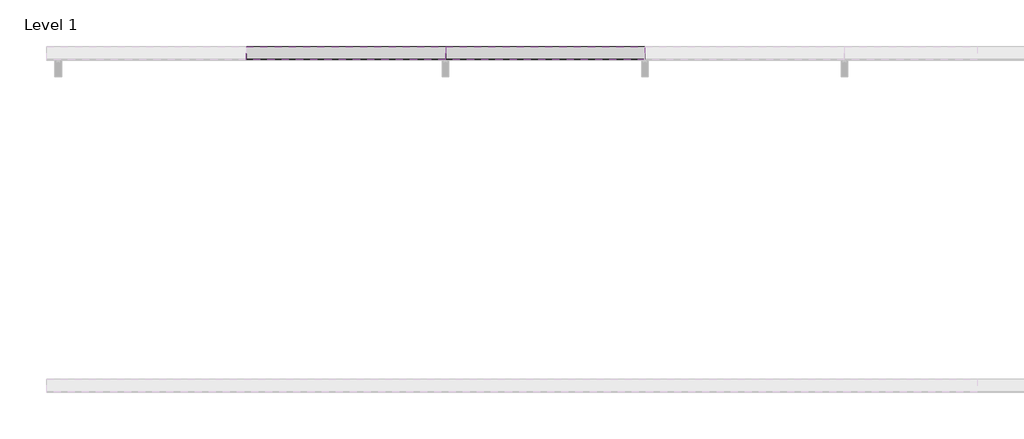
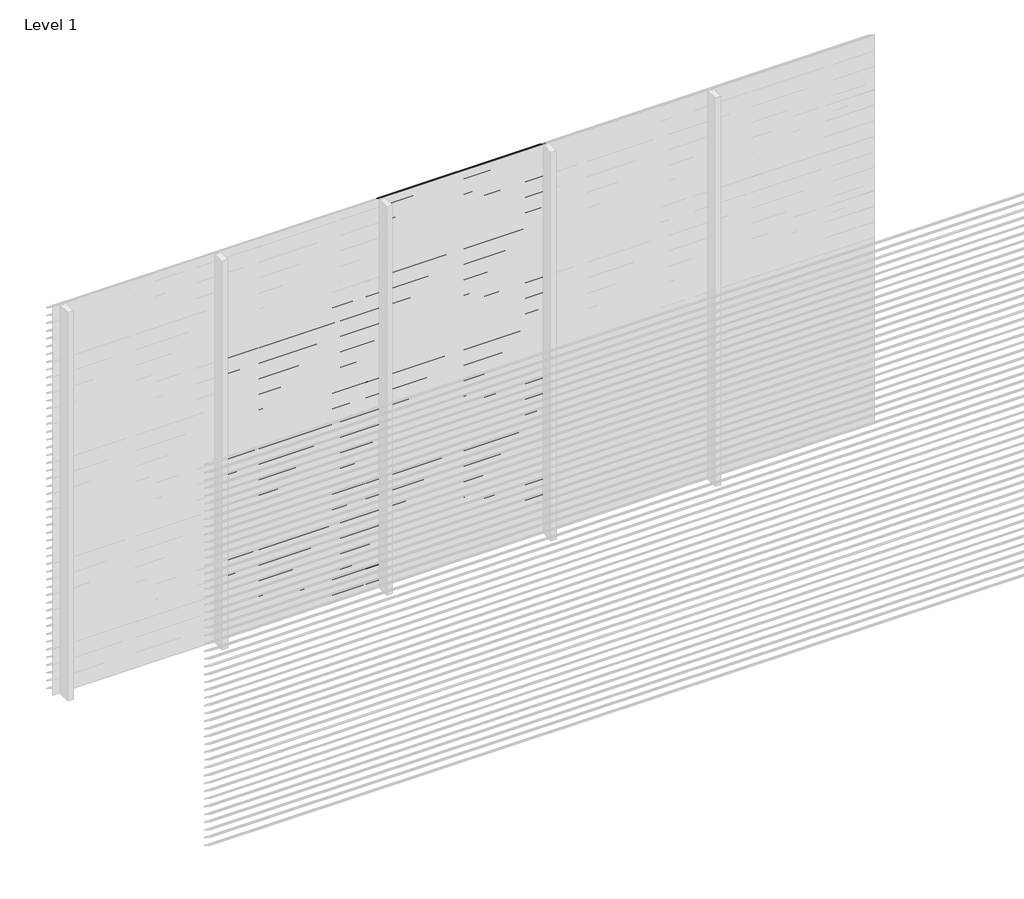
# One storey, part 27 of 153: 84 proxies.
"""IFC4 building model written with IfcOpenShell, lengths in millimetres."""

from ifc_helpers import new_model, si_unit, frame, origin, place, context, project, spatial, polyline, outline, extrude, element, save

model = new_model("IFC4")

# Units and contexts
model_context = context("Model", 3, world=origin())
ifc_project = project(units=[si_unit("LENGTHUNIT", "METRE", prefix="MILLI")], contexts=[model_context])

# Site, building, storey
site = spatial("IfcSite", under=ifc_project)
building = spatial("IfcBuilding", under=site)
storey = spatial("IfcBuildingStorey", under=building, Name="Level 1", Elevation=0.0)

# Proxies
placement = place(None, origin())
element("IfcBuildingElementProxy", 1, Name="Wall Sweeps", at=placement, inside=storey, context=model_context, shape_type="SweptSolid", body=[
    extrude(outline(polyline([(29061.0540136, 2226.0), (29061.0540136, 2220.0), (29059.8040136, 2220.7216933), (29059.8040136, 2225.2538091), (28983.0540136, 2273.9915103), (28983.0540136, 2280.0), (28984.3040136, 2280.0), (28984.3040136, 2274.7377012), (29061.0540136, 2226.0)])), frame((1666.6208099, 0.0, 0.0), z_axis=(1.0, 0.0, 0.0), x_axis=(0.0, 1.0, 0.0)), (0.0, 0.0, 1.0), 1199.9999999),
])
element("IfcBuildingElementProxy", 2, Name="Wall Sweeps", at=placement, inside=storey, context=model_context, shape_type="SweptSolid", body=[
    extrude(outline(polyline([(29061.0540136, 2166.0), (29061.0540136, 2160.0), (29059.8040136, 2160.7216933), (29059.8040136, 2165.2538091), (28983.0540136, 2213.9915103), (28983.0540136, 2220.0), (28984.3040136, 2220.0), (28984.3040136, 2214.7377012), (29061.0540136, 2166.0)])), frame((1666.6208099, 0.0, 0.0), z_axis=(1.0, 0.0, 0.0), x_axis=(0.0, 1.0, 0.0)), (0.0, 0.0, 1.0), 1199.9999999),
])
element("IfcBuildingElementProxy", 3, Name="Wall Sweeps", at=placement, inside=storey, context=model_context, shape_type="SweptSolid", body=[
    extrude(outline(polyline([(29061.0540136, 2106.0), (29061.0540136, 2100.0), (29059.8040136, 2100.7216933), (29059.8040136, 2105.2538091), (28983.0540136, 2153.9915103), (28983.0540136, 2160.0), (28984.3040136, 2160.0), (28984.3040136, 2154.7377012), (29061.0540136, 2106.0)])), frame((1666.6208099, 0.0, 0.0), z_axis=(1.0, 0.0, 0.0), x_axis=(0.0, 1.0, 0.0)), (0.0, 0.0, 1.0), 1199.9999999),
])
element("IfcBuildingElementProxy", 4, Name="Wall Sweeps", at=placement, inside=storey, context=model_context, shape_type="SweptSolid", body=[
    extrude(outline(polyline([(29061.0540136, 2046.0), (29061.0540136, 2040.0), (29059.8040136, 2040.7216933), (29059.8040136, 2045.2538091), (28983.0540136, 2093.9915103), (28983.0540136, 2100.0), (28984.3040136, 2100.0), (28984.3040136, 2094.7377012), (29061.0540136, 2046.0)])), frame((1666.6208099, 0.0, 0.0), z_axis=(1.0, 0.0, 0.0), x_axis=(0.0, 1.0, 0.0)), (0.0, 0.0, 1.0), 1199.9999999),
])
element("IfcBuildingElementProxy", 5, Name="Wall Sweeps", at=placement, inside=storey, context=model_context, shape_type="SweptSolid", body=[
    extrude(outline(polyline([(29061.0540136, 1986.0), (29061.0540136, 1980.0), (29059.8040136, 1980.7216933), (29059.8040136, 1985.2538091), (28983.0540136, 2033.9915103), (28983.0540136, 2040.0), (28984.3040136, 2040.0), (28984.3040136, 2034.7377012), (29061.0540136, 1986.0)])), frame((1666.6208099, 0.0, 0.0), z_axis=(1.0, 0.0, 0.0), x_axis=(0.0, 1.0, 0.0)), (0.0, 0.0, 1.0), 1199.9999999),
])
element("IfcBuildingElementProxy", 6, Name="Wall Sweeps", at=placement, inside=storey, context=model_context, shape_type="SweptSolid", body=[
    extrude(outline(polyline([(29061.0540136, 1926.0), (29061.0540136, 1920.0), (29059.8040136, 1920.7216933), (29059.8040136, 1925.2538091), (28983.0540136, 1973.9915103), (28983.0540136, 1980.0), (28984.3040136, 1980.0), (28984.3040136, 1974.7377012), (29061.0540136, 1926.0)])), frame((1666.6208099, 0.0, 0.0), z_axis=(1.0, 0.0, 0.0), x_axis=(0.0, 1.0, 0.0)), (0.0, 0.0, 1.0), 1199.9999999),
])
element("IfcBuildingElementProxy", 7, Name="Wall Sweeps", at=placement, inside=storey, context=model_context, shape_type="SweptSolid", body=[
    extrude(outline(polyline([(29061.0540136, 1866.0), (29061.0540136, 1860.0), (29059.8040136, 1860.7216933), (29059.8040136, 1865.2538091), (28983.0540136, 1913.9915103), (28983.0540136, 1920.0), (28984.3040136, 1920.0), (28984.3040136, 1914.7377012), (29061.0540136, 1866.0)])), frame((1666.6208099, 0.0, 0.0), z_axis=(1.0, 0.0, 0.0), x_axis=(0.0, 1.0, 0.0)), (0.0, 0.0, 1.0), 1199.9999999),
])
element("IfcBuildingElementProxy", 8, Name="Wall Sweeps", at=placement, inside=storey, context=model_context, shape_type="SweptSolid", body=[
    extrude(outline(polyline([(29061.0540136, 1806.0), (29061.0540136, 1800.0), (29059.8040136, 1800.7216933), (29059.8040136, 1805.2538091), (28983.0540136, 1853.9915103), (28983.0540136, 1860.0), (28984.3040136, 1860.0), (28984.3040136, 1854.7377012), (29061.0540136, 1806.0)])), frame((1666.6208099, 0.0, 0.0), z_axis=(1.0, 0.0, 0.0), x_axis=(0.0, 1.0, 0.0)), (0.0, 0.0, 1.0), 1199.9999999),
])
element("IfcBuildingElementProxy", 9, Name="Wall Sweeps", at=placement, inside=storey, context=model_context, shape_type="SweptSolid", body=[
    extrude(outline(polyline([(29061.0540136, 1746.0), (29061.0540136, 1740.0), (29059.8040136, 1740.7216933), (29059.8040136, 1745.2538091), (28983.0540136, 1793.9915103), (28983.0540136, 1800.0), (28984.3040136, 1800.0), (28984.3040136, 1794.7377012), (29061.0540136, 1746.0)])), frame((1666.6208099, 0.0, 0.0), z_axis=(1.0, 0.0, 0.0), x_axis=(0.0, 1.0, 0.0)), (0.0, 0.0, 1.0), 1199.9999999),
])
element("IfcBuildingElementProxy", 10, Name="Wall Sweeps", at=placement, inside=storey, context=model_context, shape_type="SweptSolid", body=[
    extrude(outline(polyline([(29061.0540136, 1686.0), (29061.0540136, 1680.0), (29059.8040136, 1680.7216933), (29059.8040136, 1685.2538091), (28983.0540136, 1733.9915103), (28983.0540136, 1740.0), (28984.3040136, 1740.0), (28984.3040136, 1734.7377012), (29061.0540136, 1686.0)])), frame((1666.6208099, 0.0, 0.0), z_axis=(1.0, 0.0, 0.0), x_axis=(0.0, 1.0, 0.0)), (0.0, 0.0, 1.0), 1199.9999999),
])
element("IfcBuildingElementProxy", 11, Name="Wall Sweeps", at=placement, inside=storey, context=model_context, shape_type="SweptSolid", body=[
    extrude(outline(polyline([(29061.0540136, 1626.0), (29061.0540136, 1620.0), (29059.8040136, 1620.7216933), (29059.8040136, 1625.2538091), (28983.0540136, 1673.9915103), (28983.0540136, 1680.0), (28984.3040136, 1680.0), (28984.3040136, 1674.7377012), (29061.0540136, 1626.0)])), frame((1666.6208099, 0.0, 0.0), z_axis=(1.0, 0.0, 0.0), x_axis=(0.0, 1.0, 0.0)), (0.0, 0.0, 1.0), 1199.9999999),
])
element("IfcBuildingElementProxy", 12, Name="Wall Sweeps", at=placement, inside=storey, context=model_context, shape_type="SweptSolid", body=[
    extrude(outline(polyline([(29061.0540136, 1566.0), (29061.0540136, 1560.0), (29059.8040136, 1560.7216933), (29059.8040136, 1565.2538091), (28983.0540136, 1613.9915103), (28983.0540136, 1620.0), (28984.3040136, 1620.0), (28984.3040136, 1614.7377012), (29061.0540136, 1566.0)])), frame((1666.6208099, 0.0, 0.0), z_axis=(1.0, 0.0, 0.0), x_axis=(0.0, 1.0, 0.0)), (0.0, 0.0, 1.0), 1199.9999999),
])
element("IfcBuildingElementProxy", 13, Name="Wall Sweeps", at=placement, inside=storey, context=model_context, shape_type="SweptSolid", body=[
    extrude(outline(polyline([(29061.0540136, 1506.0), (29061.0540136, 1500.0), (29059.8040136, 1500.7216933), (29059.8040136, 1505.2538091), (28983.0540136, 1553.9915103), (28983.0540136, 1560.0), (28984.3040136, 1560.0), (28984.3040136, 1554.7377012), (29061.0540136, 1506.0)])), frame((1666.6208099, 0.0, 0.0), z_axis=(1.0, 0.0, 0.0), x_axis=(0.0, 1.0, 0.0)), (0.0, 0.0, 1.0), 1199.9999999),
])
element("IfcBuildingElementProxy", 14, Name="Wall Sweeps", at=placement, inside=storey, context=model_context, shape_type="SweptSolid", body=[
    extrude(outline(polyline([(29061.0540136, 1446.0), (29061.0540136, 1440.0), (29059.8040136, 1440.7216933), (29059.8040136, 1445.2538091), (28983.0540136, 1493.9915103), (28983.0540136, 1500.0), (28984.3040136, 1500.0), (28984.3040136, 1494.7377012), (29061.0540136, 1446.0)])), frame((1666.6208099, 0.0, 0.0), z_axis=(1.0, 0.0, 0.0), x_axis=(0.0, 1.0, 0.0)), (0.0, 0.0, 1.0), 1199.9999999),
])
element("IfcBuildingElementProxy", 15, Name="Wall Sweeps", at=placement, inside=storey, context=model_context, shape_type="SweptSolid", body=[
    extrude(outline(polyline([(29061.0540136, 1386.0), (29061.0540136, 1380.0), (29059.8040136, 1380.7216933), (29059.8040136, 1385.2538091), (28983.0540136, 1433.9915103), (28983.0540136, 1440.0), (28984.3040136, 1440.0), (28984.3040136, 1434.7377012), (29061.0540136, 1386.0)])), frame((1666.6208099, 0.0, 0.0), z_axis=(1.0, 0.0, 0.0), x_axis=(0.0, 1.0, 0.0)), (0.0, 0.0, 1.0), 1199.9999999),
])
element("IfcBuildingElementProxy", 16, Name="Wall Sweeps", at=placement, inside=storey, context=model_context, shape_type="SweptSolid", body=[
    extrude(outline(polyline([(29061.0540136, 1326.0), (29061.0540136, 1320.0), (29059.8040136, 1320.7216933), (29059.8040136, 1325.2538091), (28983.0540136, 1373.9915103), (28983.0540136, 1380.0), (28984.3040136, 1380.0), (28984.3040136, 1374.7377012), (29061.0540136, 1326.0)])), frame((1666.6208099, 0.0, 0.0), z_axis=(1.0, 0.0, 0.0), x_axis=(0.0, 1.0, 0.0)), (0.0, 0.0, 1.0), 1199.9999999),
])
element("IfcBuildingElementProxy", 17, Name="Wall Sweeps", at=placement, inside=storey, context=model_context, shape_type="SweptSolid", body=[
    extrude(outline(polyline([(29061.0540136, 1266.0), (29061.0540136, 1260.0), (29059.8040136, 1260.7216933), (29059.8040136, 1265.2538091), (28983.0540136, 1313.9915103), (28983.0540136, 1320.0), (28984.3040136, 1320.0), (28984.3040136, 1314.7377012), (29061.0540136, 1266.0)])), frame((1666.6208099, 0.0, 0.0), z_axis=(1.0, 0.0, 0.0), x_axis=(0.0, 1.0, 0.0)), (0.0, 0.0, 1.0), 1199.9999999),
])
element("IfcBuildingElementProxy", 18, Name="Wall Sweeps", at=placement, inside=storey, context=model_context, shape_type="SweptSolid", body=[
    extrude(outline(polyline([(29061.0540136, 1206.0), (29061.0540136, 1200.0), (29059.8040136, 1200.7216933), (29059.8040136, 1205.2538091), (28983.0540136, 1253.9915103), (28983.0540136, 1260.0), (28984.3040136, 1260.0), (28984.3040136, 1254.7377012), (29061.0540136, 1206.0)])), frame((1666.6208099, 0.0, 0.0), z_axis=(1.0, 0.0, 0.0), x_axis=(0.0, 1.0, 0.0)), (0.0, 0.0, 1.0), 1199.9999999),
])
element("IfcBuildingElementProxy", 19, Name="Wall Sweeps", at=placement, inside=storey, context=model_context, shape_type="SweptSolid", body=[
    extrude(outline(polyline([(29061.0540136, 1146.0), (29061.0540136, 1140.0), (29059.8040136, 1140.7216933), (29059.8040136, 1145.2538091), (28983.0540136, 1193.9915103), (28983.0540136, 1200.0), (28984.3040136, 1200.0), (28984.3040136, 1194.7377012), (29061.0540136, 1146.0)])), frame((1666.6208099, 0.0, 0.0), z_axis=(1.0, 0.0, 0.0), x_axis=(0.0, 1.0, 0.0)), (0.0, 0.0, 1.0), 1199.9999999),
])
element("IfcBuildingElementProxy", 20, Name="Wall Sweeps", at=placement, inside=storey, context=model_context, shape_type="SweptSolid", body=[
    extrude(outline(polyline([(29061.0540136, 1086.0), (29061.0540136, 1080.0), (29059.8040136, 1080.7216933), (29059.8040136, 1085.2538091), (28983.0540136, 1133.9915103), (28983.0540136, 1140.0), (28984.3040136, 1140.0), (28984.3040136, 1134.7377012), (29061.0540136, 1086.0)])), frame((1666.6208099, 0.0, 0.0), z_axis=(1.0, 0.0, 0.0), x_axis=(0.0, 1.0, 0.0)), (0.0, 0.0, 1.0), 1199.9999999),
])
element("IfcBuildingElementProxy", 21, Name="Wall Sweeps", at=placement, inside=storey, context=model_context, shape_type="SweptSolid", body=[
    extrude(outline(polyline([(29061.0540136, 1026.0), (29061.0540136, 1020.0), (29059.8040136, 1020.7216933), (29059.8040136, 1025.2538091), (28983.0540136, 1073.9915103), (28983.0540136, 1080.0), (28984.3040136, 1080.0), (28984.3040136, 1074.7377012), (29061.0540136, 1026.0)])), frame((1666.6208099, 0.0, 0.0), z_axis=(1.0, 0.0, 0.0), x_axis=(0.0, 1.0, 0.0)), (0.0, 0.0, 1.0), 1199.9999999),
])
element("IfcBuildingElementProxy", 22, Name="Wall Sweeps", at=placement, inside=storey, context=model_context, shape_type="SweptSolid", body=[
    extrude(outline(polyline([(29061.0540136, 966.0), (29061.0540136, 960.0), (29059.8040136, 960.7216933), (29059.8040136, 965.2538091), (28983.0540136, 1013.9915103), (28983.0540136, 1020.0), (28984.3040136, 1020.0), (28984.3040136, 1014.7377012), (29061.0540136, 966.0)])), frame((1666.6208099, 0.0, 0.0), z_axis=(1.0, 0.0, 0.0), x_axis=(0.0, 1.0, 0.0)), (0.0, 0.0, 1.0), 1199.9999999),
])
element("IfcBuildingElementProxy", 23, Name="Wall Sweeps", at=placement, inside=storey, context=model_context, shape_type="SweptSolid", body=[
    extrude(outline(polyline([(29061.0540136, 906.0), (29061.0540136, 900.0), (29059.8040136, 900.7216933), (29059.8040136, 905.2538091), (28983.0540136, 953.9915103), (28983.0540136, 960.0), (28984.3040136, 960.0), (28984.3040136, 954.7377012), (29061.0540136, 906.0)])), frame((1666.6208099, 0.0, 0.0), z_axis=(1.0, 0.0, 0.0), x_axis=(0.0, 1.0, 0.0)), (0.0, 0.0, 1.0), 1199.9999999),
])
element("IfcBuildingElementProxy", 24, Name="Wall Sweeps", at=placement, inside=storey, context=model_context, shape_type="SweptSolid", body=[
    extrude(outline(polyline([(29061.0540136, 846.0), (29061.0540136, 840.0), (29059.8040136, 840.7216933), (29059.8040136, 845.2538091), (28983.0540136, 893.9915103), (28983.0540136, 900.0), (28984.3040136, 900.0), (28984.3040136, 894.7377012), (29061.0540136, 846.0)])), frame((1666.6208099, 0.0, 0.0), z_axis=(1.0, 0.0, 0.0), x_axis=(0.0, 1.0, 0.0)), (0.0, 0.0, 1.0), 1199.9999999),
])
element("IfcBuildingElementProxy", 25, Name="Wall Sweeps", at=placement, inside=storey, context=model_context, shape_type="SweptSolid", body=[
    extrude(outline(polyline([(29061.0540136, 786.0), (29061.0540136, 780.0), (29059.8040136, 780.7216933), (29059.8040136, 785.2538091), (28983.0540136, 833.9915103), (28983.0540136, 840.0), (28984.3040136, 840.0), (28984.3040136, 834.7377012), (29061.0540136, 786.0)])), frame((1666.6208099, 0.0, 0.0), z_axis=(1.0, 0.0, 0.0), x_axis=(0.0, 1.0, 0.0)), (0.0, 0.0, 1.0), 1199.9999999),
])
element("IfcBuildingElementProxy", 26, Name="Wall Sweeps", at=placement, inside=storey, context=model_context, shape_type="SweptSolid", body=[
    extrude(outline(polyline([(29061.0540136, 726.0), (29061.0540136, 720.0), (29059.8040136, 720.7216933), (29059.8040136, 725.2538091), (28983.0540136, 773.9915103), (28983.0540136, 780.0), (28984.3040136, 780.0), (28984.3040136, 774.7377012), (29061.0540136, 726.0)])), frame((1666.6208099, 0.0, 0.0), z_axis=(1.0, 0.0, 0.0), x_axis=(0.0, 1.0, 0.0)), (0.0, 0.0, 1.0), 1199.9999999),
])
element("IfcBuildingElementProxy", 27, Name="Wall Sweeps", at=placement, inside=storey, context=model_context, shape_type="SweptSolid", body=[
    extrude(outline(polyline([(29061.0540136, 666.0), (29061.0540136, 660.0), (29059.8040136, 660.7216933), (29059.8040136, 665.2538091), (28983.0540136, 713.9915103), (28983.0540136, 720.0), (28984.3040136, 720.0), (28984.3040136, 714.7377012), (29061.0540136, 666.0)])), frame((1666.6208099, 0.0, 0.0), z_axis=(1.0, 0.0, 0.0), x_axis=(0.0, 1.0, 0.0)), (0.0, 0.0, 1.0), 1199.9999999),
])
element("IfcBuildingElementProxy", 28, Name="Wall Sweeps", at=placement, inside=storey, context=model_context, shape_type="SweptSolid", body=[
    extrude(outline(polyline([(29061.0540136, 606.0), (29061.0540136, 600.0), (29059.8040136, 600.7216933), (29059.8040136, 605.2538091), (28983.0540136, 653.9915103), (28983.0540136, 660.0), (28984.3040136, 660.0), (28984.3040136, 654.7377012), (29061.0540136, 606.0)])), frame((1666.6208099, 0.0, 0.0), z_axis=(1.0, 0.0, 0.0), x_axis=(0.0, 1.0, 0.0)), (0.0, 0.0, 1.0), 1199.9999999),
])
element("IfcBuildingElementProxy", 29, Name="Wall Sweeps", at=placement, inside=storey, context=model_context, shape_type="SweptSolid", body=[
    extrude(outline(polyline([(29061.0540136, 546.0), (29061.0540136, 540.0), (29059.8040136, 540.7216933), (29059.8040136, 545.2538091), (28983.0540136, 593.9915103), (28983.0540136, 600.0), (28984.3040136, 600.0), (28984.3040136, 594.7377012), (29061.0540136, 546.0)])), frame((1666.6208099, 0.0, 0.0), z_axis=(1.0, 0.0, 0.0), x_axis=(0.0, 1.0, 0.0)), (0.0, 0.0, 1.0), 1199.9999999),
])
element("IfcBuildingElementProxy", 30, Name="Wall Sweeps", at=placement, inside=storey, context=model_context, shape_type="SweptSolid", body=[
    extrude(outline(polyline([(29061.0540136, 486.0), (29061.0540136, 480.0), (29059.8040136, 480.7216933), (29059.8040136, 485.2538091), (28983.0540136, 533.9915103), (28983.0540136, 540.0), (28984.3040136, 540.0), (28984.3040136, 534.7377012), (29061.0540136, 486.0)])), frame((1666.6208099, 0.0, 0.0), z_axis=(1.0, 0.0, 0.0), x_axis=(0.0, 1.0, 0.0)), (0.0, 0.0, 1.0), 1199.9999999),
])
element("IfcBuildingElementProxy", 31, Name="Wall Sweeps", at=placement, inside=storey, context=model_context, shape_type="SweptSolid", body=[
    extrude(outline(polyline([(29061.0540136, 426.0), (29061.0540136, 420.0), (29059.8040136, 420.7216933), (29059.8040136, 425.2538091), (28983.0540136, 473.9915103), (28983.0540136, 480.0), (28984.3040136, 480.0), (28984.3040136, 474.7377012), (29061.0540136, 426.0)])), frame((1666.6208099, 0.0, 0.0), z_axis=(1.0, 0.0, 0.0), x_axis=(0.0, 1.0, 0.0)), (0.0, 0.0, 1.0), 1199.9999999),
])
element("IfcBuildingElementProxy", 32, Name="Wall Sweeps", at=placement, inside=storey, context=model_context, shape_type="SweptSolid", body=[
    extrude(outline(polyline([(29061.0540136, 366.0), (29061.0540136, 360.0), (29059.8040136, 360.7216933), (29059.8040136, 365.2538091), (28983.0540136, 413.9915103), (28983.0540136, 420.0), (28984.3040136, 420.0), (28984.3040136, 414.7377012), (29061.0540136, 366.0)])), frame((1666.6208099, 0.0, 0.0), z_axis=(1.0, 0.0, 0.0), x_axis=(0.0, 1.0, 0.0)), (0.0, 0.0, 1.0), 1199.9999999),
])
element("IfcBuildingElementProxy", 33, Name="Wall Sweeps", at=placement, inside=storey, context=model_context, shape_type="SweptSolid", body=[
    extrude(outline(polyline([(29061.0540136, 306.0), (29061.0540136, 300.0), (29059.8040136, 300.7216933), (29059.8040136, 305.2538091), (28983.0540136, 353.9915103), (28983.0540136, 360.0), (28984.3040136, 360.0), (28984.3040136, 354.7377012), (29061.0540136, 306.0)])), frame((1666.6208099, 0.0, 0.0), z_axis=(1.0, 0.0, 0.0), x_axis=(0.0, 1.0, 0.0)), (0.0, 0.0, 1.0), 1199.9999999),
])
element("IfcBuildingElementProxy", 34, Name="Wall Sweeps", at=placement, inside=storey, context=model_context, shape_type="SweptSolid", body=[
    extrude(outline(polyline([(29061.0540136, 246.0), (29061.0540136, 240.0), (29059.8040136, 240.7216933), (29059.8040136, 245.2538091), (28983.0540136, 293.9915103), (28983.0540136, 300.0), (28984.3040136, 300.0), (28984.3040136, 294.7377012), (29061.0540136, 246.0)])), frame((1666.6208099, 0.0, 0.0), z_axis=(1.0, 0.0, 0.0), x_axis=(0.0, 1.0, 0.0)), (0.0, 0.0, 1.0), 1199.9999999),
])
element("IfcBuildingElementProxy", 35, Name="Wall Sweeps", at=placement, inside=storey, context=model_context, shape_type="SweptSolid", body=[
    extrude(outline(polyline([(29061.0540136, 186.0), (29061.0540136, 180.0), (29059.8040136, 180.7216933), (29059.8040136, 185.2538091), (28983.0540136, 233.9915103), (28983.0540136, 240.0), (28984.3040136, 240.0), (28984.3040136, 234.7377012), (29061.0540136, 186.0)])), frame((1666.6208099, 0.0, 0.0), z_axis=(1.0, 0.0, 0.0), x_axis=(0.0, 1.0, 0.0)), (0.0, 0.0, 1.0), 1199.9999999),
])
element("IfcBuildingElementProxy", 36, Name="Wall Sweeps", at=placement, inside=storey, context=model_context, shape_type="SweptSolid", body=[
    extrude(outline(polyline([(29061.0540136, 126.0), (29061.0540136, 120.0), (29059.8040136, 120.7216933), (29059.8040136, 125.2538091), (28983.0540136, 173.9915103), (28983.0540136, 180.0), (28984.3040136, 180.0), (28984.3040136, 174.7377012), (29061.0540136, 126.0)])), frame((1666.6208099, 0.0, 0.0), z_axis=(1.0, 0.0, 0.0), x_axis=(0.0, 1.0, 0.0)), (0.0, 0.0, 1.0), 1199.9999999),
])
element("IfcBuildingElementProxy", 37, Name="Wall Sweeps", at=placement, inside=storey, context=model_context, shape_type="SweptSolid", body=[
    extrude(outline(polyline([(29061.0540136, 66.0), (29061.0540136, 60.0), (29059.8040136, 60.7216933), (29059.8040136, 65.2538091), (28983.0540136, 113.9915103), (28983.0540136, 120.0), (28984.3040136, 120.0), (28984.3040136, 114.7377012), (29061.0540136, 66.0)])), frame((1666.6208099, 0.0, 0.0), z_axis=(1.0, 0.0, 0.0), x_axis=(0.0, 1.0, 0.0)), (0.0, 0.0, 1.0), 1199.9999999),
])
element("IfcBuildingElementProxy", 38, Name="Wall Sweeps", at=placement, inside=storey, context=model_context, shape_type="SweptSolid", body=[
    extrude(outline(polyline([(29061.0540136, 6.0), (29061.0540136, 0.0), (29059.8040136, 0.7216933), (29059.8040136, 5.2538091), (28983.0540136, 53.9915103), (28983.0540136, 60.0), (28984.3040136, 60.0), (28984.3040136, 54.7377012), (29061.0540136, 6.0)])), frame((1666.6208099, 0.0, 0.0), z_axis=(1.0, 0.0, 0.0), x_axis=(0.0, 1.0, 0.0)), (0.0, 0.0, 1.0), 1199.9999999),
])
element("IfcBuildingElementProxy", 39, Name="Wall Sweeps", at=placement, inside=storey, context=model_context, shape_type="SweptSolid", body=[
    extrude(outline(polyline([(29061.0540136, 2946.0), (29061.0540136, 2940.0), (29059.8040136, 2940.7216933), (29059.8040136, 2945.2538091), (28983.0540136, 2993.9915103), (28983.0540136, 3000.0), (28984.3040136, 3000.0), (28984.3040136, 2994.7377012), (29061.0540136, 2946.0)])), frame((2866.6208097, 0.0, 0.0), z_axis=(1.0, 0.0, 0.0), x_axis=(0.0, 1.0, 0.0)), (0.0, 0.0, 1.0), 1199.9999999),
])
element("IfcBuildingElementProxy", 40, Name="Wall Sweeps", at=placement, inside=storey, context=model_context, shape_type="SweptSolid", body=[
    extrude(outline(polyline([(29061.0540136, 2886.0), (29061.0540136, 2880.0), (29059.8040136, 2880.7216933), (29059.8040136, 2885.2538091), (28983.0540136, 2933.9915103), (28983.0540136, 2940.0), (28984.3040136, 2940.0), (28984.3040136, 2934.7377012), (29061.0540136, 2886.0)])), frame((2866.6208097, 0.0, 0.0), z_axis=(1.0, 0.0, 0.0), x_axis=(0.0, 1.0, 0.0)), (0.0, 0.0, 1.0), 1199.9999999),
])
element("IfcBuildingElementProxy", 41, Name="Wall Sweeps", at=placement, inside=storey, context=model_context, shape_type="SweptSolid", body=[
    extrude(outline(polyline([(29061.0540136, 2826.0), (29061.0540136, 2820.0), (29059.8040136, 2820.7216933), (29059.8040136, 2825.2538091), (28983.0540136, 2873.9915103), (28983.0540136, 2880.0), (28984.3040136, 2880.0), (28984.3040136, 2874.7377012), (29061.0540136, 2826.0)])), frame((2866.6208097, 0.0, 0.0), z_axis=(1.0, 0.0, 0.0), x_axis=(0.0, 1.0, 0.0)), (0.0, 0.0, 1.0), 1199.9999999),
])
element("IfcBuildingElementProxy", 42, Name="Wall Sweeps", at=placement, inside=storey, context=model_context, shape_type="SweptSolid", body=[
    extrude(outline(polyline([(29061.0540136, 2766.0), (29061.0540136, 2760.0), (29059.8040136, 2760.7216933), (29059.8040136, 2765.2538091), (28983.0540136, 2813.9915103), (28983.0540136, 2820.0), (28984.3040136, 2820.0), (28984.3040136, 2814.7377012), (29061.0540136, 2766.0)])), frame((2866.6208097, 0.0, 0.0), z_axis=(1.0, 0.0, 0.0), x_axis=(0.0, 1.0, 0.0)), (0.0, 0.0, 1.0), 1199.9999999),
])
element("IfcBuildingElementProxy", 43, Name="Wall Sweeps", at=placement, inside=storey, context=model_context, shape_type="SweptSolid", body=[
    extrude(outline(polyline([(29061.0540136, 2706.0), (29061.0540136, 2700.0), (29059.8040136, 2700.7216933), (29059.8040136, 2705.2538091), (28983.0540136, 2753.9915103), (28983.0540136, 2760.0), (28984.3040136, 2760.0), (28984.3040136, 2754.7377012), (29061.0540136, 2706.0)])), frame((2866.6208097, 0.0, 0.0), z_axis=(1.0, 0.0, 0.0), x_axis=(0.0, 1.0, 0.0)), (0.0, 0.0, 1.0), 1199.9999999),
])
element("IfcBuildingElementProxy", 44, Name="Wall Sweeps", at=placement, inside=storey, context=model_context, shape_type="SweptSolid", body=[
    extrude(outline(polyline([(29061.0540136, 2646.0), (29061.0540136, 2640.0), (29059.8040136, 2640.7216933), (29059.8040136, 2645.2538091), (28983.0540136, 2693.9915103), (28983.0540136, 2700.0), (28984.3040136, 2700.0), (28984.3040136, 2694.7377012), (29061.0540136, 2646.0)])), frame((2866.6208097, 0.0, 0.0), z_axis=(1.0, 0.0, 0.0), x_axis=(0.0, 1.0, 0.0)), (0.0, 0.0, 1.0), 1199.9999999),
])
element("IfcBuildingElementProxy", 45, Name="Wall Sweeps", at=placement, inside=storey, context=model_context, shape_type="SweptSolid", body=[
    extrude(outline(polyline([(29061.0540136, 2586.0), (29061.0540136, 2580.0), (29059.8040136, 2580.7216933), (29059.8040136, 2585.2538091), (28983.0540136, 2633.9915103), (28983.0540136, 2640.0), (28984.3040136, 2640.0), (28984.3040136, 2634.7377012), (29061.0540136, 2586.0)])), frame((2866.6208097, 0.0, 0.0), z_axis=(1.0, 0.0, 0.0), x_axis=(0.0, 1.0, 0.0)), (0.0, 0.0, 1.0), 1199.9999999),
])
element("IfcBuildingElementProxy", 46, Name="Wall Sweeps", at=placement, inside=storey, context=model_context, shape_type="SweptSolid", body=[
    extrude(outline(polyline([(29061.0540136, 2526.0), (29061.0540136, 2520.0), (29059.8040136, 2520.7216933), (29059.8040136, 2525.2538091), (28983.0540136, 2573.9915103), (28983.0540136, 2580.0), (28984.3040136, 2580.0), (28984.3040136, 2574.7377012), (29061.0540136, 2526.0)])), frame((2866.6208097, 0.0, 0.0), z_axis=(1.0, 0.0, 0.0), x_axis=(0.0, 1.0, 0.0)), (0.0, 0.0, 1.0), 1199.9999999),
])
element("IfcBuildingElementProxy", 47, Name="Wall Sweeps", at=placement, inside=storey, context=model_context, shape_type="SweptSolid", body=[
    extrude(outline(polyline([(29061.0540136, 2466.0), (29061.0540136, 2460.0), (29059.8040136, 2460.7216933), (29059.8040136, 2465.2538091), (28983.0540136, 2513.9915103), (28983.0540136, 2520.0), (28984.3040136, 2520.0), (28984.3040136, 2514.7377012), (29061.0540136, 2466.0)])), frame((2866.6208097, 0.0, 0.0), z_axis=(1.0, 0.0, 0.0), x_axis=(0.0, 1.0, 0.0)), (0.0, 0.0, 1.0), 1199.9999999),
])
element("IfcBuildingElementProxy", 48, Name="Wall Sweeps", at=placement, inside=storey, context=model_context, shape_type="SweptSolid", body=[
    extrude(outline(polyline([(29061.0540136, 2406.0), (29061.0540136, 2400.0), (29059.8040136, 2400.7216933), (29059.8040136, 2405.2538091), (28983.0540136, 2453.9915103), (28983.0540136, 2460.0), (28984.3040136, 2460.0), (28984.3040136, 2454.7377012), (29061.0540136, 2406.0)])), frame((2866.6208097, 0.0, 0.0), z_axis=(1.0, 0.0, 0.0), x_axis=(0.0, 1.0, 0.0)), (0.0, 0.0, 1.0), 1199.9999999),
])
element("IfcBuildingElementProxy", 49, Name="Wall Sweeps", at=placement, inside=storey, context=model_context, shape_type="SweptSolid", body=[
    extrude(outline(polyline([(29061.0540136, 2346.0), (29061.0540136, 2340.0), (29059.8040136, 2340.7216933), (29059.8040136, 2345.2538091), (28983.0540136, 2393.9915103), (28983.0540136, 2400.0), (28984.3040136, 2400.0), (28984.3040136, 2394.7377012), (29061.0540136, 2346.0)])), frame((2866.6208097, 0.0, 0.0), z_axis=(1.0, 0.0, 0.0), x_axis=(0.0, 1.0, 0.0)), (0.0, 0.0, 1.0), 1199.9999999),
])
element("IfcBuildingElementProxy", 50, Name="Wall Sweeps", at=placement, inside=storey, context=model_context, shape_type="SweptSolid", body=[
    extrude(outline(polyline([(29061.0540136, 2286.0), (29061.0540136, 2280.0), (29059.8040136, 2280.7216933), (29059.8040136, 2285.2538091), (28983.0540136, 2333.9915103), (28983.0540136, 2340.0), (28984.3040136, 2340.0), (28984.3040136, 2334.7377012), (29061.0540136, 2286.0)])), frame((2866.6208097, 0.0, 0.0), z_axis=(1.0, 0.0, 0.0), x_axis=(0.0, 1.0, 0.0)), (0.0, 0.0, 1.0), 1199.9999999),
])
element("IfcBuildingElementProxy", 51, Name="Wall Sweeps", at=placement, inside=storey, context=model_context, shape_type="SweptSolid", body=[
    extrude(outline(polyline([(29061.0540136, 2226.0), (29061.0540136, 2220.0), (29059.8040136, 2220.7216933), (29059.8040136, 2225.2538091), (28983.0540136, 2273.9915103), (28983.0540136, 2280.0), (28984.3040136, 2280.0), (28984.3040136, 2274.7377012), (29061.0540136, 2226.0)])), frame((2866.6208097, 0.0, 0.0), z_axis=(1.0, 0.0, 0.0), x_axis=(0.0, 1.0, 0.0)), (0.0, 0.0, 1.0), 1199.9999999),
])
element("IfcBuildingElementProxy", 52, Name="Wall Sweeps", at=placement, inside=storey, context=model_context, shape_type="SweptSolid", body=[
    extrude(outline(polyline([(29061.0540136, 2166.0), (29061.0540136, 2160.0), (29059.8040136, 2160.7216933), (29059.8040136, 2165.2538091), (28983.0540136, 2213.9915103), (28983.0540136, 2220.0), (28984.3040136, 2220.0), (28984.3040136, 2214.7377012), (29061.0540136, 2166.0)])), frame((2866.6208097, 0.0, 0.0), z_axis=(1.0, 0.0, 0.0), x_axis=(0.0, 1.0, 0.0)), (0.0, 0.0, 1.0), 1199.9999999),
])
element("IfcBuildingElementProxy", 53, Name="Wall Sweeps", at=placement, inside=storey, context=model_context, shape_type="SweptSolid", body=[
    extrude(outline(polyline([(29061.0540136, 2106.0), (29061.0540136, 2100.0), (29059.8040136, 2100.7216933), (29059.8040136, 2105.2538091), (28983.0540136, 2153.9915103), (28983.0540136, 2160.0), (28984.3040136, 2160.0), (28984.3040136, 2154.7377012), (29061.0540136, 2106.0)])), frame((2866.6208097, 0.0, 0.0), z_axis=(1.0, 0.0, 0.0), x_axis=(0.0, 1.0, 0.0)), (0.0, 0.0, 1.0), 1199.9999999),
])
element("IfcBuildingElementProxy", 54, Name="Wall Sweeps", at=placement, inside=storey, context=model_context, shape_type="SweptSolid", body=[
    extrude(outline(polyline([(29061.0540136, 2046.0), (29061.0540136, 2040.0), (29059.8040136, 2040.7216933), (29059.8040136, 2045.2538091), (28983.0540136, 2093.9915103), (28983.0540136, 2100.0), (28984.3040136, 2100.0), (28984.3040136, 2094.7377012), (29061.0540136, 2046.0)])), frame((2866.6208097, 0.0, 0.0), z_axis=(1.0, 0.0, 0.0), x_axis=(0.0, 1.0, 0.0)), (0.0, 0.0, 1.0), 1199.9999999),
])
element("IfcBuildingElementProxy", 55, Name="Wall Sweeps", at=placement, inside=storey, context=model_context, shape_type="SweptSolid", body=[
    extrude(outline(polyline([(29061.0540136, 1986.0), (29061.0540136, 1980.0), (29059.8040136, 1980.7216933), (29059.8040136, 1985.2538091), (28983.0540136, 2033.9915103), (28983.0540136, 2040.0), (28984.3040136, 2040.0), (28984.3040136, 2034.7377012), (29061.0540136, 1986.0)])), frame((2866.6208097, 0.0, 0.0), z_axis=(1.0, 0.0, 0.0), x_axis=(0.0, 1.0, 0.0)), (0.0, 0.0, 1.0), 1199.9999999),
])
element("IfcBuildingElementProxy", 56, Name="Wall Sweeps", at=placement, inside=storey, context=model_context, shape_type="SweptSolid", body=[
    extrude(outline(polyline([(29061.0540136, 1926.0), (29061.0540136, 1920.0), (29059.8040136, 1920.7216933), (29059.8040136, 1925.2538091), (28983.0540136, 1973.9915103), (28983.0540136, 1980.0), (28984.3040136, 1980.0), (28984.3040136, 1974.7377012), (29061.0540136, 1926.0)])), frame((2866.6208097, 0.0, 0.0), z_axis=(1.0, 0.0, 0.0), x_axis=(0.0, 1.0, 0.0)), (0.0, 0.0, 1.0), 1199.9999999),
])
element("IfcBuildingElementProxy", 57, Name="Wall Sweeps", at=placement, inside=storey, context=model_context, shape_type="SweptSolid", body=[
    extrude(outline(polyline([(29061.0540136, 1866.0), (29061.0540136, 1860.0), (29059.8040136, 1860.7216933), (29059.8040136, 1865.2538091), (28983.0540136, 1913.9915103), (28983.0540136, 1920.0), (28984.3040136, 1920.0), (28984.3040136, 1914.7377012), (29061.0540136, 1866.0)])), frame((2866.6208097, 0.0, 0.0), z_axis=(1.0, 0.0, 0.0), x_axis=(0.0, 1.0, 0.0)), (0.0, 0.0, 1.0), 1199.9999999),
])
element("IfcBuildingElementProxy", 58, Name="Wall Sweeps", at=placement, inside=storey, context=model_context, shape_type="SweptSolid", body=[
    extrude(outline(polyline([(29061.0540136, 1806.0), (29061.0540136, 1800.0), (29059.8040136, 1800.7216933), (29059.8040136, 1805.2538091), (28983.0540136, 1853.9915103), (28983.0540136, 1860.0), (28984.3040136, 1860.0), (28984.3040136, 1854.7377012), (29061.0540136, 1806.0)])), frame((2866.6208097, 0.0, 0.0), z_axis=(1.0, 0.0, 0.0), x_axis=(0.0, 1.0, 0.0)), (0.0, 0.0, 1.0), 1199.9999999),
])
element("IfcBuildingElementProxy", 59, Name="Wall Sweeps", at=placement, inside=storey, context=model_context, shape_type="SweptSolid", body=[
    extrude(outline(polyline([(29061.0540136, 1746.0), (29061.0540136, 1740.0), (29059.8040136, 1740.7216933), (29059.8040136, 1745.2538091), (28983.0540136, 1793.9915103), (28983.0540136, 1800.0), (28984.3040136, 1800.0), (28984.3040136, 1794.7377012), (29061.0540136, 1746.0)])), frame((2866.6208097, 0.0, 0.0), z_axis=(1.0, 0.0, 0.0), x_axis=(0.0, 1.0, 0.0)), (0.0, 0.0, 1.0), 1199.9999999),
])
element("IfcBuildingElementProxy", 60, Name="Wall Sweeps", at=placement, inside=storey, context=model_context, shape_type="SweptSolid", body=[
    extrude(outline(polyline([(29061.0540136, 1686.0), (29061.0540136, 1680.0), (29059.8040136, 1680.7216933), (29059.8040136, 1685.2538091), (28983.0540136, 1733.9915103), (28983.0540136, 1740.0), (28984.3040136, 1740.0), (28984.3040136, 1734.7377012), (29061.0540136, 1686.0)])), frame((2866.6208097, 0.0, 0.0), z_axis=(1.0, 0.0, 0.0), x_axis=(0.0, 1.0, 0.0)), (0.0, 0.0, 1.0), 1199.9999999),
])
element("IfcBuildingElementProxy", 61, Name="Wall Sweeps", at=placement, inside=storey, context=model_context, shape_type="SweptSolid", body=[
    extrude(outline(polyline([(29061.0540136, 1626.0), (29061.0540136, 1620.0), (29059.8040136, 1620.7216933), (29059.8040136, 1625.2538091), (28983.0540136, 1673.9915103), (28983.0540136, 1680.0), (28984.3040136, 1680.0), (28984.3040136, 1674.7377012), (29061.0540136, 1626.0)])), frame((2866.6208097, 0.0, 0.0), z_axis=(1.0, 0.0, 0.0), x_axis=(0.0, 1.0, 0.0)), (0.0, 0.0, 1.0), 1199.9999999),
])
element("IfcBuildingElementProxy", 62, Name="Wall Sweeps", at=placement, inside=storey, context=model_context, shape_type="SweptSolid", body=[
    extrude(outline(polyline([(29061.0540136, 1566.0), (29061.0540136, 1560.0), (29059.8040136, 1560.7216933), (29059.8040136, 1565.2538091), (28983.0540136, 1613.9915103), (28983.0540136, 1620.0), (28984.3040136, 1620.0), (28984.3040136, 1614.7377012), (29061.0540136, 1566.0)])), frame((2866.6208097, 0.0, 0.0), z_axis=(1.0, 0.0, 0.0), x_axis=(0.0, 1.0, 0.0)), (0.0, 0.0, 1.0), 1199.9999999),
])
element("IfcBuildingElementProxy", 63, Name="Wall Sweeps", at=placement, inside=storey, context=model_context, shape_type="SweptSolid", body=[
    extrude(outline(polyline([(29061.0540136, 1506.0), (29061.0540136, 1500.0), (29059.8040136, 1500.7216933), (29059.8040136, 1505.2538091), (28983.0540136, 1553.9915103), (28983.0540136, 1560.0), (28984.3040136, 1560.0), (28984.3040136, 1554.7377012), (29061.0540136, 1506.0)])), frame((2866.6208097, 0.0, 0.0), z_axis=(1.0, 0.0, 0.0), x_axis=(0.0, 1.0, 0.0)), (0.0, 0.0, 1.0), 1199.9999999),
])
element("IfcBuildingElementProxy", 64, Name="Wall Sweeps", at=placement, inside=storey, context=model_context, shape_type="SweptSolid", body=[
    extrude(outline(polyline([(29061.0540136, 1446.0), (29061.0540136, 1440.0), (29059.8040136, 1440.7216933), (29059.8040136, 1445.2538091), (28983.0540136, 1493.9915103), (28983.0540136, 1500.0), (28984.3040136, 1500.0), (28984.3040136, 1494.7377012), (29061.0540136, 1446.0)])), frame((2866.6208097, 0.0, 0.0), z_axis=(1.0, 0.0, 0.0), x_axis=(0.0, 1.0, 0.0)), (0.0, 0.0, 1.0), 1199.9999999),
])
element("IfcBuildingElementProxy", 65, Name="Wall Sweeps", at=placement, inside=storey, context=model_context, shape_type="SweptSolid", body=[
    extrude(outline(polyline([(29061.0540136, 1386.0), (29061.0540136, 1380.0), (29059.8040136, 1380.7216933), (29059.8040136, 1385.2538091), (28983.0540136, 1433.9915103), (28983.0540136, 1440.0), (28984.3040136, 1440.0), (28984.3040136, 1434.7377012), (29061.0540136, 1386.0)])), frame((2866.6208097, 0.0, 0.0), z_axis=(1.0, 0.0, 0.0), x_axis=(0.0, 1.0, 0.0)), (0.0, 0.0, 1.0), 1199.9999999),
])
element("IfcBuildingElementProxy", 66, Name="Wall Sweeps", at=placement, inside=storey, context=model_context, shape_type="SweptSolid", body=[
    extrude(outline(polyline([(29061.0540136, 1326.0), (29061.0540136, 1320.0), (29059.8040136, 1320.7216933), (29059.8040136, 1325.2538091), (28983.0540136, 1373.9915103), (28983.0540136, 1380.0), (28984.3040136, 1380.0), (28984.3040136, 1374.7377012), (29061.0540136, 1326.0)])), frame((2866.6208097, 0.0, 0.0), z_axis=(1.0, 0.0, 0.0), x_axis=(0.0, 1.0, 0.0)), (0.0, 0.0, 1.0), 1199.9999999),
])
element("IfcBuildingElementProxy", 67, Name="Wall Sweeps", at=placement, inside=storey, context=model_context, shape_type="SweptSolid", body=[
    extrude(outline(polyline([(29061.0540136, 1266.0), (29061.0540136, 1260.0), (29059.8040136, 1260.7216933), (29059.8040136, 1265.2538091), (28983.0540136, 1313.9915103), (28983.0540136, 1320.0), (28984.3040136, 1320.0), (28984.3040136, 1314.7377012), (29061.0540136, 1266.0)])), frame((2866.6208097, 0.0, 0.0), z_axis=(1.0, 0.0, 0.0), x_axis=(0.0, 1.0, 0.0)), (0.0, 0.0, 1.0), 1199.9999999),
])
element("IfcBuildingElementProxy", 68, Name="Wall Sweeps", at=placement, inside=storey, context=model_context, shape_type="SweptSolid", body=[
    extrude(outline(polyline([(29061.0540136, 1206.0), (29061.0540136, 1200.0), (29059.8040136, 1200.7216933), (29059.8040136, 1205.2538091), (28983.0540136, 1253.9915103), (28983.0540136, 1260.0), (28984.3040136, 1260.0), (28984.3040136, 1254.7377012), (29061.0540136, 1206.0)])), frame((2866.6208097, 0.0, 0.0), z_axis=(1.0, 0.0, 0.0), x_axis=(0.0, 1.0, 0.0)), (0.0, 0.0, 1.0), 1199.9999999),
])
element("IfcBuildingElementProxy", 69, Name="Wall Sweeps", at=placement, inside=storey, context=model_context, shape_type="SweptSolid", body=[
    extrude(outline(polyline([(29061.0540136, 1146.0), (29061.0540136, 1140.0), (29059.8040136, 1140.7216933), (29059.8040136, 1145.2538091), (28983.0540136, 1193.9915103), (28983.0540136, 1200.0), (28984.3040136, 1200.0), (28984.3040136, 1194.7377012), (29061.0540136, 1146.0)])), frame((2866.6208097, 0.0, 0.0), z_axis=(1.0, 0.0, 0.0), x_axis=(0.0, 1.0, 0.0)), (0.0, 0.0, 1.0), 1199.9999999),
])
element("IfcBuildingElementProxy", 70, Name="Wall Sweeps", at=placement, inside=storey, context=model_context, shape_type="SweptSolid", body=[
    extrude(outline(polyline([(29061.0540136, 1086.0), (29061.0540136, 1080.0), (29059.8040136, 1080.7216933), (29059.8040136, 1085.2538091), (28983.0540136, 1133.9915103), (28983.0540136, 1140.0), (28984.3040136, 1140.0), (28984.3040136, 1134.7377012), (29061.0540136, 1086.0)])), frame((2866.6208097, 0.0, 0.0), z_axis=(1.0, 0.0, 0.0), x_axis=(0.0, 1.0, 0.0)), (0.0, 0.0, 1.0), 1199.9999999),
])
element("IfcBuildingElementProxy", 71, Name="Wall Sweeps", at=placement, inside=storey, context=model_context, shape_type="SweptSolid", body=[
    extrude(outline(polyline([(29061.0540136, 1026.0), (29061.0540136, 1020.0), (29059.8040136, 1020.7216933), (29059.8040136, 1025.2538091), (28983.0540136, 1073.9915103), (28983.0540136, 1080.0), (28984.3040136, 1080.0), (28984.3040136, 1074.7377012), (29061.0540136, 1026.0)])), frame((2866.6208097, 0.0, 0.0), z_axis=(1.0, 0.0, 0.0), x_axis=(0.0, 1.0, 0.0)), (0.0, 0.0, 1.0), 1199.9999999),
])
element("IfcBuildingElementProxy", 72, Name="Wall Sweeps", at=placement, inside=storey, context=model_context, shape_type="SweptSolid", body=[
    extrude(outline(polyline([(29061.0540136, 966.0), (29061.0540136, 960.0), (29059.8040136, 960.7216933), (29059.8040136, 965.2538091), (28983.0540136, 1013.9915103), (28983.0540136, 1020.0), (28984.3040136, 1020.0), (28984.3040136, 1014.7377012), (29061.0540136, 966.0)])), frame((2866.6208097, 0.0, 0.0), z_axis=(1.0, 0.0, 0.0), x_axis=(0.0, 1.0, 0.0)), (0.0, 0.0, 1.0), 1199.9999999),
])
element("IfcBuildingElementProxy", 73, Name="Wall Sweeps", at=placement, inside=storey, context=model_context, shape_type="SweptSolid", body=[
    extrude(outline(polyline([(29061.0540136, 906.0), (29061.0540136, 900.0), (29059.8040136, 900.7216933), (29059.8040136, 905.2538091), (28983.0540136, 953.9915103), (28983.0540136, 960.0), (28984.3040136, 960.0), (28984.3040136, 954.7377012), (29061.0540136, 906.0)])), frame((2866.6208097, 0.0, 0.0), z_axis=(1.0, 0.0, 0.0), x_axis=(0.0, 1.0, 0.0)), (0.0, 0.0, 1.0), 1199.9999999),
])
element("IfcBuildingElementProxy", 74, Name="Wall Sweeps", at=placement, inside=storey, context=model_context, shape_type="SweptSolid", body=[
    extrude(outline(polyline([(29061.0540136, 846.0), (29061.0540136, 840.0), (29059.8040136, 840.7216933), (29059.8040136, 845.2538091), (28983.0540136, 893.9915103), (28983.0540136, 900.0), (28984.3040136, 900.0), (28984.3040136, 894.7377012), (29061.0540136, 846.0)])), frame((2866.6208097, 0.0, 0.0), z_axis=(1.0, 0.0, 0.0), x_axis=(0.0, 1.0, 0.0)), (0.0, 0.0, 1.0), 1199.9999999),
])
element("IfcBuildingElementProxy", 75, Name="Wall Sweeps", at=placement, inside=storey, context=model_context, shape_type="SweptSolid", body=[
    extrude(outline(polyline([(29061.0540136, 786.0), (29061.0540136, 780.0), (29059.8040136, 780.7216933), (29059.8040136, 785.2538091), (28983.0540136, 833.9915103), (28983.0540136, 840.0), (28984.3040136, 840.0), (28984.3040136, 834.7377012), (29061.0540136, 786.0)])), frame((2866.6208097, 0.0, 0.0), z_axis=(1.0, 0.0, 0.0), x_axis=(0.0, 1.0, 0.0)), (0.0, 0.0, 1.0), 1199.9999999),
])
element("IfcBuildingElementProxy", 76, Name="Wall Sweeps", at=placement, inside=storey, context=model_context, shape_type="SweptSolid", body=[
    extrude(outline(polyline([(29061.0540136, 726.0), (29061.0540136, 720.0), (29059.8040136, 720.7216933), (29059.8040136, 725.2538091), (28983.0540136, 773.9915103), (28983.0540136, 780.0), (28984.3040136, 780.0), (28984.3040136, 774.7377012), (29061.0540136, 726.0)])), frame((2866.6208097, 0.0, 0.0), z_axis=(1.0, 0.0, 0.0), x_axis=(0.0, 1.0, 0.0)), (0.0, 0.0, 1.0), 1199.9999999),
])
element("IfcBuildingElementProxy", 77, Name="Wall Sweeps", at=placement, inside=storey, context=model_context, shape_type="SweptSolid", body=[
    extrude(outline(polyline([(29061.0540136, 666.0), (29061.0540136, 660.0), (29059.8040136, 660.7216933), (29059.8040136, 665.2538091), (28983.0540136, 713.9915103), (28983.0540136, 720.0), (28984.3040136, 720.0), (28984.3040136, 714.7377012), (29061.0540136, 666.0)])), frame((2866.6208097, 0.0, 0.0), z_axis=(1.0, 0.0, 0.0), x_axis=(0.0, 1.0, 0.0)), (0.0, 0.0, 1.0), 1199.9999999),
])
element("IfcBuildingElementProxy", 78, Name="Wall Sweeps", at=placement, inside=storey, context=model_context, shape_type="SweptSolid", body=[
    extrude(outline(polyline([(29061.0540136, 606.0), (29061.0540136, 600.0), (29059.8040136, 600.7216933), (29059.8040136, 605.2538091), (28983.0540136, 653.9915103), (28983.0540136, 660.0), (28984.3040136, 660.0), (28984.3040136, 654.7377012), (29061.0540136, 606.0)])), frame((2866.6208097, 0.0, 0.0), z_axis=(1.0, 0.0, 0.0), x_axis=(0.0, 1.0, 0.0)), (0.0, 0.0, 1.0), 1199.9999999),
])
element("IfcBuildingElementProxy", 79, Name="Wall Sweeps", at=placement, inside=storey, context=model_context, shape_type="SweptSolid", body=[
    extrude(outline(polyline([(29061.0540136, 546.0), (29061.0540136, 540.0), (29059.8040136, 540.7216933), (29059.8040136, 545.2538091), (28983.0540136, 593.9915103), (28983.0540136, 600.0), (28984.3040136, 600.0), (28984.3040136, 594.7377012), (29061.0540136, 546.0)])), frame((2866.6208097, 0.0, 0.0), z_axis=(1.0, 0.0, 0.0), x_axis=(0.0, 1.0, 0.0)), (0.0, 0.0, 1.0), 1199.9999999),
])
element("IfcBuildingElementProxy", 80, Name="Wall Sweeps", at=placement, inside=storey, context=model_context, shape_type="SweptSolid", body=[
    extrude(outline(polyline([(29061.0540136, 486.0), (29061.0540136, 480.0), (29059.8040136, 480.7216933), (29059.8040136, 485.2538091), (28983.0540136, 533.9915103), (28983.0540136, 540.0), (28984.3040136, 540.0), (28984.3040136, 534.7377012), (29061.0540136, 486.0)])), frame((2866.6208097, 0.0, 0.0), z_axis=(1.0, 0.0, 0.0), x_axis=(0.0, 1.0, 0.0)), (0.0, 0.0, 1.0), 1199.9999999),
])
element("IfcBuildingElementProxy", 81, Name="Wall Sweeps", at=placement, inside=storey, context=model_context, shape_type="SweptSolid", body=[
    extrude(outline(polyline([(29061.0540136, 426.0), (29061.0540136, 420.0), (29059.8040136, 420.7216933), (29059.8040136, 425.2538091), (28983.0540136, 473.9915103), (28983.0540136, 480.0), (28984.3040136, 480.0), (28984.3040136, 474.7377012), (29061.0540136, 426.0)])), frame((2866.6208097, 0.0, 0.0), z_axis=(1.0, 0.0, 0.0), x_axis=(0.0, 1.0, 0.0)), (0.0, 0.0, 1.0), 1199.9999999),
])
element("IfcBuildingElementProxy", 82, Name="Wall Sweeps", at=placement, inside=storey, context=model_context, shape_type="SweptSolid", body=[
    extrude(outline(polyline([(29061.0540136, 366.0), (29061.0540136, 360.0), (29059.8040136, 360.7216933), (29059.8040136, 365.2538091), (28983.0540136, 413.9915103), (28983.0540136, 420.0), (28984.3040136, 420.0), (28984.3040136, 414.7377012), (29061.0540136, 366.0)])), frame((2866.6208097, 0.0, 0.0), z_axis=(1.0, 0.0, 0.0), x_axis=(0.0, 1.0, 0.0)), (0.0, 0.0, 1.0), 1199.9999999),
])
element("IfcBuildingElementProxy", 83, Name="Wall Sweeps", at=placement, inside=storey, context=model_context, shape_type="SweptSolid", body=[
    extrude(outline(polyline([(29061.0540136, 306.0), (29061.0540136, 300.0), (29059.8040136, 300.7216933), (29059.8040136, 305.2538091), (28983.0540136, 353.9915103), (28983.0540136, 360.0), (28984.3040136, 360.0), (28984.3040136, 354.7377012), (29061.0540136, 306.0)])), frame((2866.6208097, 0.0, 0.0), z_axis=(1.0, 0.0, 0.0), x_axis=(0.0, 1.0, 0.0)), (0.0, 0.0, 1.0), 1199.9999999),
])
element("IfcBuildingElementProxy", 84, Name="Wall Sweeps", at=placement, inside=storey, context=model_context, shape_type="SweptSolid", body=[
    extrude(outline(polyline([(29061.0540136, 246.0), (29061.0540136, 240.0), (29059.8040136, 240.7216933), (29059.8040136, 245.2538091), (28983.0540136, 293.9915103), (28983.0540136, 300.0), (28984.3040136, 300.0), (28984.3040136, 294.7377012), (29061.0540136, 246.0)])), frame((2866.6208097, 0.0, 0.0), z_axis=(1.0, 0.0, 0.0), x_axis=(0.0, 1.0, 0.0)), (0.0, 0.0, 1.0), 1199.9999999),
])

save(model, "model.ifc")
